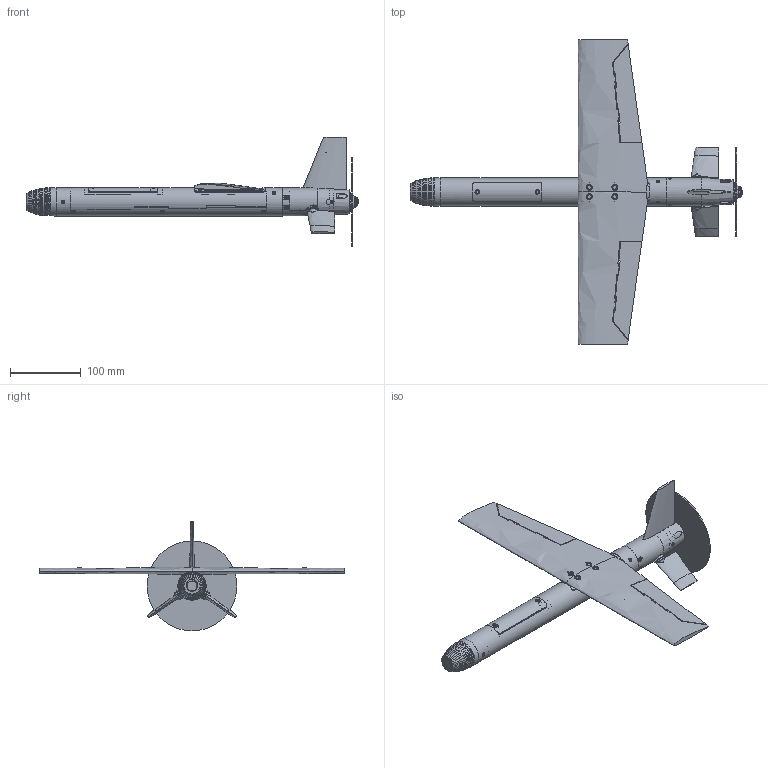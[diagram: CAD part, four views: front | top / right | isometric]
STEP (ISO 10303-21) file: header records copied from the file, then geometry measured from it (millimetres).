
FILE_DESCRIPTION(('SkyG Speed 90B - revision C6B-17 - 2026-10-13','C6B-assembly'),'2;1');
FILE_NAME('C6B-assembly_C6B-17','2026-10-13T21:54:47',('Author'),( 'Open CASCADE'),'Open CASCADE STEP processor 7.9','Open CASCADE 7.9' ,'Unknown');
FILE_SCHEMA(('AUTOMOTIVE_DESIGN { 1 0 10303 214 1 1 1 1 }'));
Length unit declared in the file: millimetre
Products named in the file (172): C4; N0M-nose-micro-camera; N0M-vtx-shelf; F3-tail-module; WR-wing-right; WL-wing-left; AR-aileron-right; AL-aileron-left; SR-stabilator-right; SL-stabilator-left; FN-fin; AHR-aileron-horn-right; AHL-aileron-horn-left; THR-tail-horn-right; THL-tail-horn-left; TR-equipment-tray; BF-battery-front-stop; TC-tail-coupler; CW-countersunk-washer; NB1-wing-nut-bar-front; NB2-wing-nut-bar-rear; HL1-hatch-lip-front; HL2-hatch-lip-rear; HF-front-hatch; WF-wing-window-filler; HG-gps-carrier; M1-motor-plate; SP-spinner; ENV-scr_mplate_R; ENV-cw_15; ENV-scr_mplate_L; ENV-cw_16; ENV-motor; ENV-prop_disc; ENV-prop_hub_nut; ENV-battery; ENV-camera_micro19; ENV-cam_screws; ENV-O_o4_camera; ENV-O_window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
Assembly tree (171 placements, depth 2):
  C4
    N0M-nose-micro-camera
    N0M-vtx-shelf
    F3-tail-module
    WR-wing-right
    WL-wing-left
    AR-aileron-right
    AL-aileron-left
    SR-stabilator-right
    SL-stabilator-left
    FN-fin
    AHR-aileron-horn-right
    AHL-aileron-horn-left
    THR-tail-horn-right
    THL-tail-horn-left
    TR-equipment-tray
    BF-battery-front-stop
    TC-tail-coupler
    CW-countersunk-washer
    NB1-wing-nut-bar-front
    NB2-wing-nut-bar-rear
    HL1-hatch-lip-front
    HL2-hatch-lip-rear
    HF-front-hatch
    WF-wing-window-filler
    HG-gps-carrier
    M1-motor-plate
    SP-spinner
    ENV-scr_mplate_R
    ENV-cw_15
    ENV-scr_mplate_L
    ENV-cw_16
    ENV-motor
    ENV-prop_disc
    ENV-prop_hub_nut
    ENV-battery
    ENV-camera_micro19
    ENV-cam_screws
    ENV-O_o4_camera
    ENV-O_window
    ENV-O_o4_screws
    ENV-O_o4_module
    ENV-vtx
    ENV-gnss
    ENV-flight_controller
    ENV-ail_servo_arm
    ENV-ail_rod_R
    ENV-ail_link_R
    ENV-ail_rod_L
    ENV-ail_link_L
    ENV-ail_spine_R
    ENV-ail_spine_L
    ENV-receiver
    ENV-ant_elrs
    ENV-ant_vtx
    ENV-O_ant_video
    ENV-aileron_servo
    ENV-tail_servo_L
    ENV-tail_servo_R
    ENV-esc
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Bounding box: 469.18 x 430 x 155.1 mm (x, y, z)
Volume: 495376.5 mm3; surface area: 353886.6 mm2
Topology: 221 solids, 223 shells, 2850 faces, 7158 edges, 4748 vertices
Faces by surface type: plane 1799, cylinder 612, bspline 237, cone 155, sphere 21, torus 15, revolution 11
Full cylindrical faces by diameter (mm): 0.98 x6, 1.107 x11, 1.2 x22, 1.25 x8, 1.5 x2, 1.6 x20, 1.65 x2, 1.75 x4, 1.9 x1, 2 x34, 2.1 x4, 2.2 x22, 2.5 x2, 2.6 x4, 2.842 x6, 3 x19, 3.05 x2, 3.2 x8, 3.3 x6, 3.8 x2, 3.9 x3, 3.94 x3, 4 x4, 4.9 x16, 5 x14, 5.2 x3, 5.5 x4, 5.6 x3, 6 x5, 6.3 x2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
Entity records: 482649 total; most frequent: CARTESIAN_POINT 344876, DIRECTION 21708, ORIENTED_EDGE 14274, PCURVE 14274, DEFINITIONAL_REPRESENTATION 14274, LINE 10001, VECTOR 10001, EDGE_CURVE 7137
